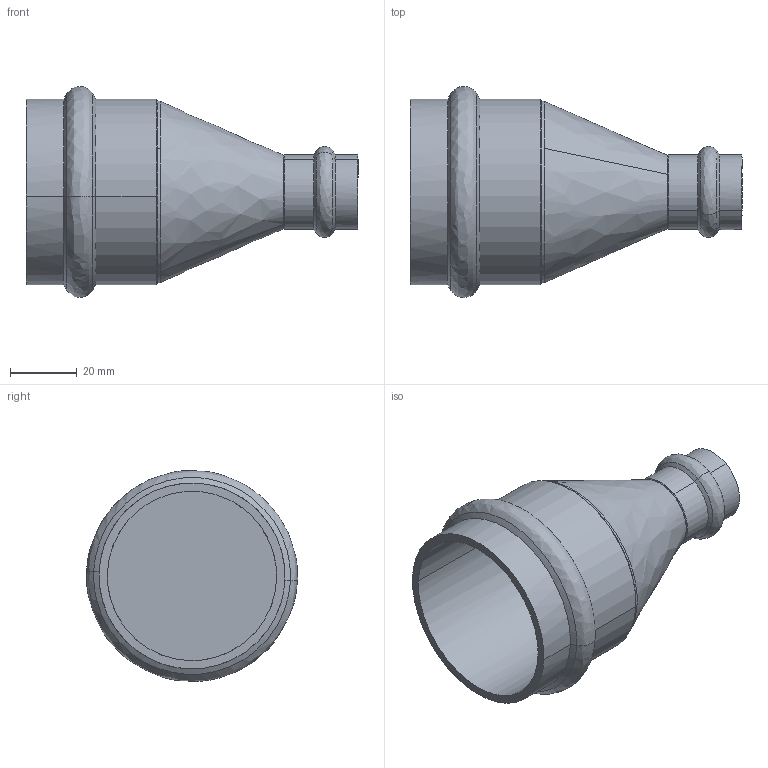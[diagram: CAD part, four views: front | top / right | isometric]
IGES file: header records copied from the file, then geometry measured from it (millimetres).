
Start section: 3D InterOp IGES (Version 25 0 1), Spatial Corp. Copyright (c) 1999-2007.
Global section: file name: pim0004384.igs; native system: Spatial Corp.; preprocessor: 3D InterOp ACIS/IGES; author: Cad-Pim; organization: TransMagic, Inc.; date: 20150430.132528; units: millimetre
Bounding box: 99.5 x 63.25 x 63.21 mm (x, y, z)
Volume: 72289.8 mm3; surface area: 24884.8 mm2
Topology: 1 solids, 1 shells, 38 faces, 99 edges, 65 vertices
Faces by surface type: bspline 14, cylinder 12, cone 12
